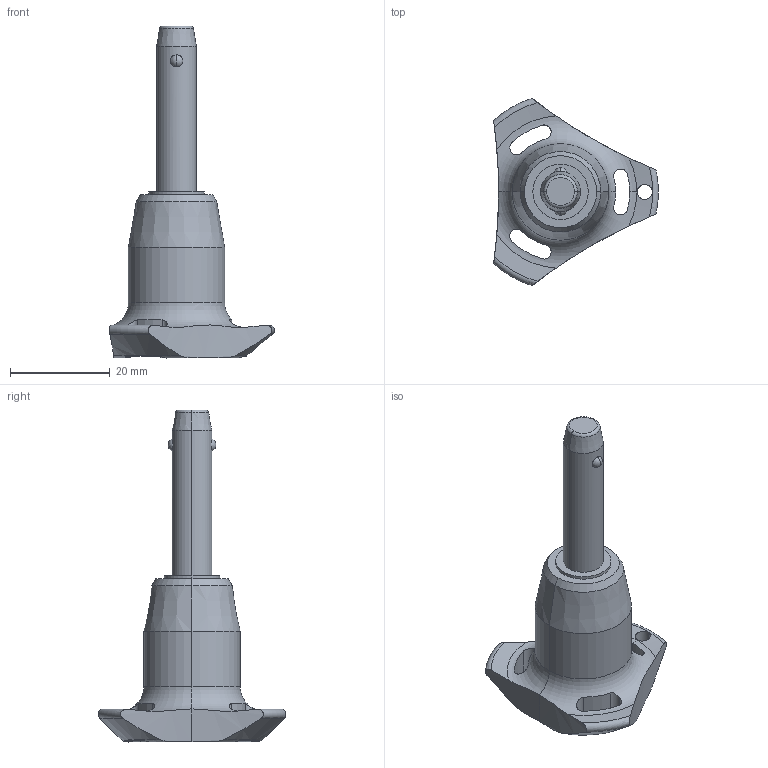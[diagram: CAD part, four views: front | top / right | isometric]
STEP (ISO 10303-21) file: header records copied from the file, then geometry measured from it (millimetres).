
FILE_DESCRIPTION (( 'STEP AP203' ), '1' );
FILE_NAME ('QR1734.M08-025-S.step', '2025-11-12T14:20:08', ( '' ), ( '' ), 'SwSTEP 2.0', 'SolidWorks 2019', '' );
FILE_SCHEMA (( 'CONFIG_CONTROL_DESIGN' ));
Length unit declared in the file: millimetre
Products named in the file (1): QR1734.M08-025-S
Bounding box: 33 x 37.51 x 66.5 mm (x, y, z)
Volume: 11906.9 mm3; surface area: 4682.9 mm2
Topology: 1 solids, 1 shells, 65 faces, 174 edges, 109 vertices
Faces by surface type: cylinder 30, cone 14, torus 11, sphere 6, plane 4
Entity records: 2746 total; most frequent: CARTESIAN_POINT 1073, ORIENTED_EDGE 348, DIRECTION 331, EDGE_CURVE 174, AXIS2_PLACEMENT_3D 147, VERTEX_POINT 109, CIRCLE 81, EDGE_LOOP 71
